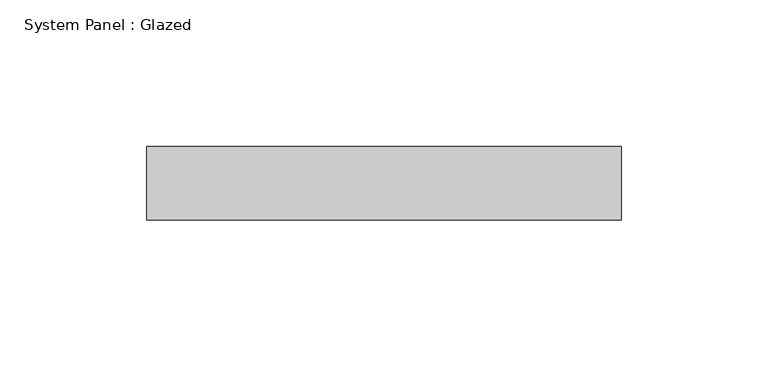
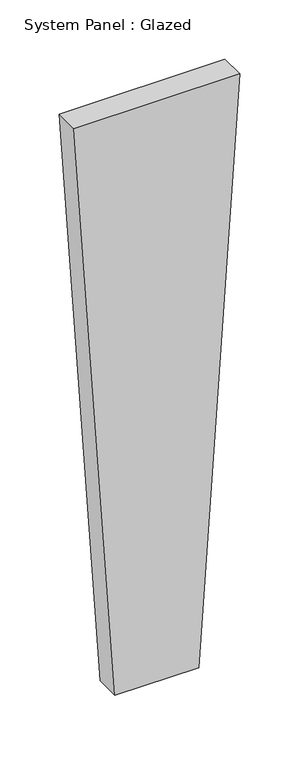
"""IFC4 building model written with IfcOpenShell, lengths in millimetres: plate geometry, System Panel : Glazed."""

from ifc_helpers import new_model, si_unit, frame, origin, place, context, project, spatial, polyline, outline, extrude, source, transform, mapped, element, save


def system_panel_glazed_5717b311(model_context):
    return source(origin(), model_context, "Body", "SweptSolid", [
        extrude(outline(polyline([(0.0, -40.8138919), (0.0, 40.8138919), (598.6615075, 80.8688477), (598.6615075, -80.8688477), (0.0, -40.8138919)])), frame((0.0, 24.5, 0.0), z_axis=(0.0, 1.0, 0.0), x_axis=(0.0, 0.0, 1.0)), (0.0, 0.0, 1.0), 25.0),
    ])


if __name__ == "__main__":
    model = new_model("IFC4")
    model_context = context("Model", 3, world=origin())
    ifc_project = project(units=[si_unit("LENGTHUNIT", "METRE", prefix="MILLI")], contexts=[model_context])
    site = spatial("IfcSite", under=ifc_project)
    building = spatial("IfcBuilding", under=site)
    placement = place(None, origin())
    system_panel_glazed_shape = system_panel_glazed_5717b311(model_context)
    element("IfcPlate", 1, ObjectType="System Panel : Glazed", at=placement, inside=building, context=model_context, shape_type="MappedRepresentation", body=[
        mapped(system_panel_glazed_shape, transform((0.0, 0.0, 0.0), x_axis=(1.0, 0.0, 0.0), y_axis=(0.0, 1.0, 0.0), z_axis=(0.0, 0.0, 1.0))),
    ])
    save(model, "model.ifc")
